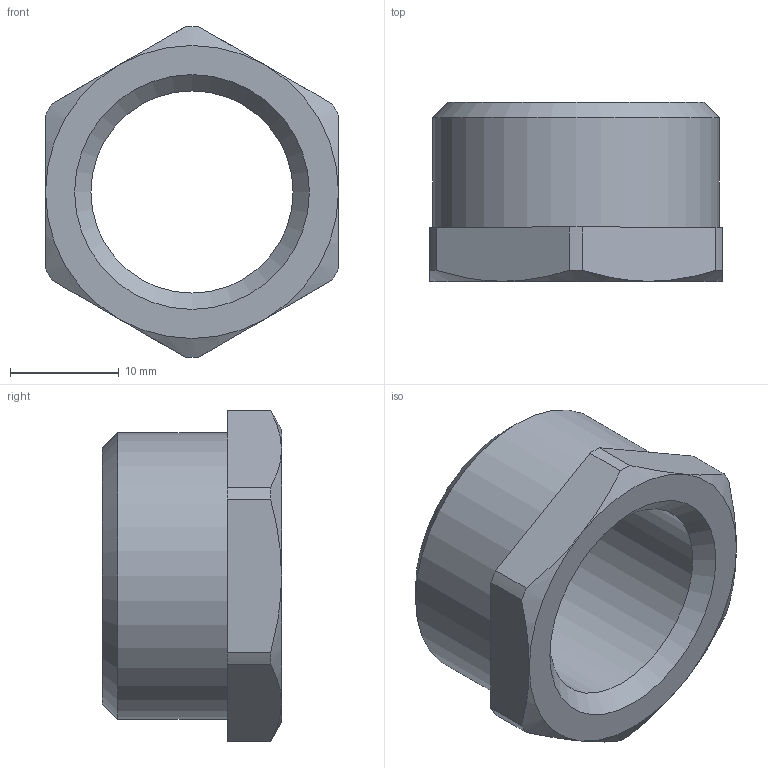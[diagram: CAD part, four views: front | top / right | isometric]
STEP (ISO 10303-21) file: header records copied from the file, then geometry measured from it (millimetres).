
FILE_DESCRIPTION(('STEP AP203'), '1');
FILE_NAME('ÂÐ.753128.029 - VTr.581.N.0504 Ôèò. ðåçüá', '2024-07-04T08:42:45', ('Boss'), (''), 'C3D Converter', 'C3D Toolkit', '');
FILE_SCHEMA(('CONFIG_CONTROL_DESIGN'));
Length unit declared in the file: millimetre
Products named in the file (1): ВР.753128.029
Bounding box: 27 x 16.5 x 30.5 mm (x, y, z)
Volume: 4729.1 mm3; surface area: 2902.5 mm2
Topology: 1 solids, 1 shells, 26 faces, 60 edges, 37 vertices
Faces by surface type: plane 9, cone 9, cylinder 8
Full cylindrical faces by diameter (mm): 18.632 x1, 26.441 x1
Entity records: 934 total; most frequent: CARTESIAN_POINT 387, DIRECTION 110, ORIENTED_EDGE 98, EDGE_CURVE 49, AXIS2_PLACEMENT_3D 46, VERTEX_POINT 34, EDGE_LOOP 31, ADVANCED_FACE 23
